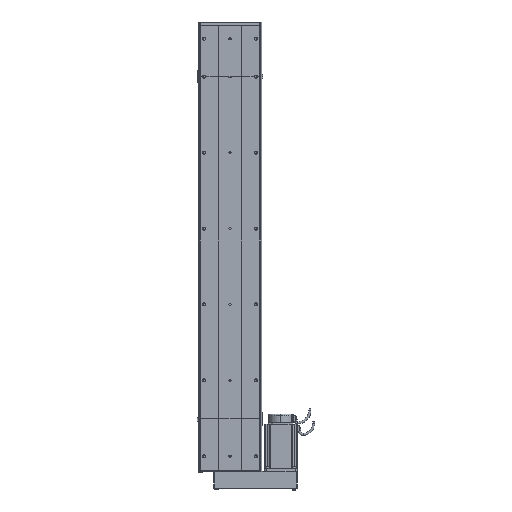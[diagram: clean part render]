
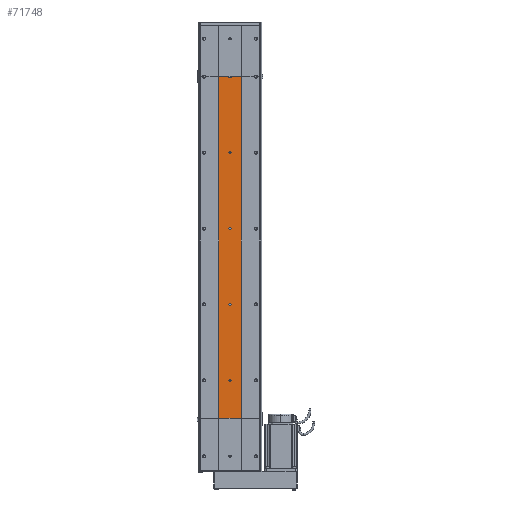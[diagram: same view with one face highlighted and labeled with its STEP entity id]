
A CAD part, front view. The second image highlights one B-rep face of the part: STEP entity #71748.
In plain terms, the highlighted planar face has unit normal (0, -1, 0).
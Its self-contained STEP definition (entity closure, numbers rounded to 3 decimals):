
#2173 = CARTESIAN_POINT ( 'NONE',  ( -30., -32.5, 900. ) ) ;
#2436 = CARTESIAN_POINT ( 'NONE',  ( -30., -32.5, 900. ) ) ;
#2437 = LINE ( 'NONE', #2436, #2523 ) ;
#2522 = DIRECTION ( 'NONE',  ( -1., 0., 0. ) ) ;
#2523 = VECTOR ( 'NONE', #2522, 1000. ) ;
#2569 = CARTESIAN_POINT ( 'NONE',  ( 30., -32.5, 900. ) ) ;
#8577 = VERTEX_POINT ( 'NONE', #14121 ) ;
#8580 = VERTEX_POINT ( 'NONE', #14227 ) ;
#8582 = VERTEX_POINT ( 'NONE', #14151 ) ;
#8585 = EDGE_CURVE ( 'NONE', #8587, #8656, #14221, .T. ) ;
#8587 = VERTEX_POINT ( 'NONE', #14219 ) ;
#8617 = VERTEX_POINT ( 'NONE', #14252 ) ;
#8628 = EDGE_CURVE ( 'NONE', #8644, #8577, #14327, .T. ) ;
#8630 = EDGE_CURVE ( 'NONE', #8582, #8580, #14314, .T. ) ;
#8644 = VERTEX_POINT ( 'NONE', #14388 ) ;
#8656 = VERTEX_POINT ( 'NONE', #14481 ) ;
#8700 = VERTEX_POINT ( 'NONE', #20990 ) ;
#8800 = EDGE_CURVE ( 'NONE', #8700, #8617, #26895, .T. ) ;
#9402 = VERTEX_POINT ( 'NONE', #16155 ) ;
#9428 = VERTEX_POINT ( 'NONE', #16334 ) ;
#9430 = EDGE_CURVE ( 'NONE', #9428, #9402, #16342, .T. ) ;
#10026 = EDGE_CURVE ( 'NONE', #10081, #12114, #21164, .T. ) ;
#10081 = VERTEX_POINT ( 'NONE', #21723 ) ;
#11564 = CIRCLE ( 'NONE', #11566, 3. ) ;
#11565 = FACE_BOUND ( 'NONE', #71753, .T. ) ;
#11566 = AXIS2_PLACEMENT_3D ( 'NONE', #11569, #11571, #11619 ) ;
#11569 = CARTESIAN_POINT ( 'NONE',  ( 0., -32.5, 700. ) ) ;
#11571 = DIRECTION ( 'NONE',  ( 0., -1., 0. ) ) ;
#11572 = FACE_BOUND ( 'NONE', #71800, .T. ) ;
#11580 = FACE_BOUND ( 'NONE', #71893, .T. ) ;
#11586 = FACE_BOUND ( 'NONE', #71905, .T. ) ;
#11590 = FACE_OUTER_BOUND ( 'NONE', #71817, .T. ) ;
#11595 = PLANE ( 'NONE',  #11633 ) ;
#11619 = DIRECTION ( 'NONE',  ( 0., 0., -1. ) ) ;
#11628 = DIRECTION ( 'NONE',  ( 0., 0., 1. ) ) ;
#11630 = DIRECTION ( 'NONE',  ( 0., 1., 0. ) ) ;
#11632 = CARTESIAN_POINT ( 'NONE',  ( -30., -32.5, 0. ) ) ;
#11633 = AXIS2_PLACEMENT_3D ( 'NONE', #11632, #11630, #11628 ) ;
#11711 = CARTESIAN_POINT ( 'NONE',  ( 0., -32.5, 300. ) ) ;
#11720 = CIRCLE ( 'NONE', #11841, 3. ) ;
#11729 = DIRECTION ( 'NONE',  ( 0., 0., 1. ) ) ;
#11730 = DIRECTION ( 'NONE',  ( 0., 1., 0. ) ) ;
#11731 = CARTESIAN_POINT ( 'NONE',  ( 0., -32.5, 900. ) ) ;
#11733 = CIRCLE ( 'NONE', #11736, 3. ) ;
#11734 = DIRECTION ( 'NONE',  ( 0., 0., 1. ) ) ;
#11735 = VECTOR ( 'NONE', #11734, 1000. ) ;
#11736 = AXIS2_PLACEMENT_3D ( 'NONE', #11731, #11730, #11729 ) ;
#11737 = CARTESIAN_POINT ( 'NONE',  ( 30., -32.5, 0. ) ) ;
#11738 = LINE ( 'NONE', #11737, #11735 ) ;
#11740 = DIRECTION ( 'NONE',  ( 0., 0., -1. ) ) ;
#11741 = DIRECTION ( 'NONE',  ( 0., -1., 0. ) ) ;
#11742 = AXIS2_PLACEMENT_3D ( 'NONE', #11711, #11741, #11740 ) ;
#11746 = DIRECTION ( 'NONE',  ( 0., 0., -1. ) ) ;
#11747 = DIRECTION ( 'NONE',  ( 0., -1., 0. ) ) ;
#11748 = CARTESIAN_POINT ( 'NONE',  ( 0., -32.5, 500. ) ) ;
#11749 = AXIS2_PLACEMENT_3D ( 'NONE', #11748, #11747, #11746 ) ;
#11750 = CIRCLE ( 'NONE', #11749, 3. ) ;
#11751 = CIRCLE ( 'NONE', #11742, 3. ) ;
#11838 = DIRECTION ( 'NONE',  ( 0., 0., -1. ) ) ;
#11839 = DIRECTION ( 'NONE',  ( 0., -1., 0. ) ) ;
#11840 = CARTESIAN_POINT ( 'NONE',  ( 0., -32.5, 100. ) ) ;
#11841 = AXIS2_PLACEMENT_3D ( 'NONE', #11840, #11839, #11838 ) ;
#11893 = DIRECTION ( 'NONE',  ( 0., 0., 1. ) ) ;
#11894 = VECTOR ( 'NONE', #11893, 1000. ) ;
#11899 = CARTESIAN_POINT ( 'NONE',  ( -30., -32.5, 0. ) ) ;
#11900 = LINE ( 'NONE', #11899, #11894 ) ;
#12114 = VERTEX_POINT ( 'NONE', #2173 ) ;
#12154 = EDGE_CURVE ( 'NONE', #12188, #8587, #2437, .T. ) ;
#12188 = VERTEX_POINT ( 'NONE', #2569 ) ;
#14121 = CARTESIAN_POINT ( 'NONE',  ( 0., -32.5, 497. ) ) ;
#14127 = CARTESIAN_POINT ( 'NONE',  ( 0., -32.5, 900. ) ) ;
#14151 = CARTESIAN_POINT ( 'NONE',  ( 0., -32.5, 303. ) ) ;
#14204 = DIRECTION ( 'NONE',  ( 0., 0., 1. ) ) ;
#14207 = DIRECTION ( 'NONE',  ( 0., 1., 0. ) ) ;
#14208 = AXIS2_PLACEMENT_3D ( 'NONE', #14127, #14207, #14204 ) ;
#14219 = CARTESIAN_POINT ( 'NONE',  ( 3., -32.5, 900. ) ) ;
#14221 = CIRCLE ( 'NONE', #14208, 3. ) ;
#14227 = CARTESIAN_POINT ( 'NONE',  ( 0., -32.5, 297. ) ) ;
#14245 = CARTESIAN_POINT ( 'NONE',  ( 0., -32.5, 500. ) ) ;
#14252 = CARTESIAN_POINT ( 'NONE',  ( 0., -32.5, 697. ) ) ;
#14314 = CIRCLE ( 'NONE', #14415, 3. ) ;
#14317 = DIRECTION ( 'NONE',  ( 0., 0., -1. ) ) ;
#14319 = DIRECTION ( 'NONE',  ( 0., -1., 0. ) ) ;
#14327 = CIRCLE ( 'NONE', #14334, 3. ) ;
#14334 = AXIS2_PLACEMENT_3D ( 'NONE', #14245, #14319, #14317 ) ;
#14341 = CARTESIAN_POINT ( 'NONE',  ( 0., -32.5, 300. ) ) ;
#14388 = CARTESIAN_POINT ( 'NONE',  ( 0., -32.5, 503. ) ) ;
#14413 = DIRECTION ( 'NONE',  ( 0., 0., -1. ) ) ;
#14414 = DIRECTION ( 'NONE',  ( 0., -1., 0. ) ) ;
#14415 = AXIS2_PLACEMENT_3D ( 'NONE', #14341, #14414, #14413 ) ;
#14481 = CARTESIAN_POINT ( 'NONE',  ( 0., -32.5, 897. ) ) ;
#16155 = CARTESIAN_POINT ( 'NONE',  ( 0., -32.5, 97. ) ) ;
#16325 = DIRECTION ( 'NONE',  ( 0., 0., -1. ) ) ;
#16326 = DIRECTION ( 'NONE',  ( 0., -1., 0. ) ) ;
#16327 = CARTESIAN_POINT ( 'NONE',  ( 0., -32.5, 100. ) ) ;
#16328 = AXIS2_PLACEMENT_3D ( 'NONE', #16327, #16326, #16325 ) ;
#16334 = CARTESIAN_POINT ( 'NONE',  ( 0., -32.5, 103. ) ) ;
#16342 = CIRCLE ( 'NONE', #16328, 3. ) ;
#20990 = CARTESIAN_POINT ( 'NONE',  ( 0., -32.5, 703. ) ) ;
#21163 = CARTESIAN_POINT ( 'NONE',  ( -30., -32.5, 900. ) ) ;
#21164 = LINE ( 'NONE', #21163, #21258 ) ;
#21257 = DIRECTION ( 'NONE',  ( -1., 0., 0. ) ) ;
#21258 = VECTOR ( 'NONE', #21257, 1000. ) ;
#21723 = CARTESIAN_POINT ( 'NONE',  ( -3., -32.5, 900. ) ) ;
#26887 = AXIS2_PLACEMENT_3D ( 'NONE', #26958, #26957, #26955 ) ;
#26895 = CIRCLE ( 'NONE', #26887, 3. ) ;
#26955 = DIRECTION ( 'NONE',  ( 0., 0., -1. ) ) ;
#26957 = DIRECTION ( 'NONE',  ( 0., -1., 0. ) ) ;
#26958 = CARTESIAN_POINT ( 'NONE',  ( 0., -32.5, 700. ) ) ;
#35433 = EDGE_CURVE ( 'NONE', #35473, #35497, #48814, .T. ) ;
#35473 = VERTEX_POINT ( 'NONE', #48857 ) ;
#35497 = VERTEX_POINT ( 'NONE', #48889 ) ;
#48763 = VECTOR ( 'NONE', #48808, 1000. ) ;
#48808 = DIRECTION ( 'NONE',  ( -1., 0., 0. ) ) ;
#48813 = CARTESIAN_POINT ( 'NONE',  ( -30., -32.5, 0. ) ) ;
#48814 = LINE ( 'NONE', #48813, #48763 ) ;
#48857 = CARTESIAN_POINT ( 'NONE',  ( 30., -32.5, 0. ) ) ;
#48889 = CARTESIAN_POINT ( 'NONE',  ( -30., -32.5, 0. ) ) ;
#71748 = ADVANCED_FACE ( 'NONE', ( #11586, #11580, #11565, #11572, #11590 ), #11595, .F. ) ;
#71751 = ORIENTED_EDGE ( 'NONE', *, *, #8800, .F. ) ;
#71753 = EDGE_LOOP ( 'NONE', ( #71808, #71806 ) ) ;
#71754 = EDGE_CURVE ( 'NONE', #8617, #8700, #11564, .T. ) ;
#71798 = EDGE_CURVE ( 'NONE', #8577, #8644, #11750, .T. ) ;
#71799 = ORIENTED_EDGE ( 'NONE', *, *, #71798, .F. ) ;
#71800 = EDGE_LOOP ( 'NONE', ( #71801, #71890 ) ) ;
#71801 = ORIENTED_EDGE ( 'NONE', *, *, #71845, .F. ) ;
#71804 = ORIENTED_EDGE ( 'NONE', *, *, #8628, .F. ) ;
#71805 = EDGE_CURVE ( 'NONE', #8580, #8582, #11751, .T. ) ;
#71806 = ORIENTED_EDGE ( 'NONE', *, *, #8630, .F. ) ;
#71808 = ORIENTED_EDGE ( 'NONE', *, *, #71805, .F. ) ;
#71810 = EDGE_CURVE ( 'NONE', #35473, #12188, #11738, .T. ) ;
#71812 = ORIENTED_EDGE ( 'NONE', *, *, #71810, .T. ) ;
#71815 = ORIENTED_EDGE ( 'NONE', *, *, #10026, .T. ) ;
#71816 = ORIENTED_EDGE ( 'NONE', *, *, #35433, .F. ) ;
#71817 = EDGE_LOOP ( 'NONE', ( #71818, #71847, #71820, #71815, #71821, #71816, #71812 ) ) ;
#71818 = ORIENTED_EDGE ( 'NONE', *, *, #12154, .T. ) ;
#71819 = EDGE_CURVE ( 'NONE', #8656, #10081, #11733, .T. ) ;
#71820 = ORIENTED_EDGE ( 'NONE', *, *, #71819, .T. ) ;
#71821 = ORIENTED_EDGE ( 'NONE', *, *, #71895, .F. ) ;
#71845 = EDGE_CURVE ( 'NONE', #9402, #9428, #11720, .T. ) ;
#71847 = ORIENTED_EDGE ( 'NONE', *, *, #8585, .T. ) ;
#71890 = ORIENTED_EDGE ( 'NONE', *, *, #9430, .F. ) ;
#71893 = EDGE_LOOP ( 'NONE', ( #71799, #71804 ) ) ;
#71894 = ORIENTED_EDGE ( 'NONE', *, *, #71754, .F. ) ;
#71895 = EDGE_CURVE ( 'NONE', #35497, #12114, #11900, .T. ) ;
#71905 = EDGE_LOOP ( 'NONE', ( #71894, #71751 ) ) ;
